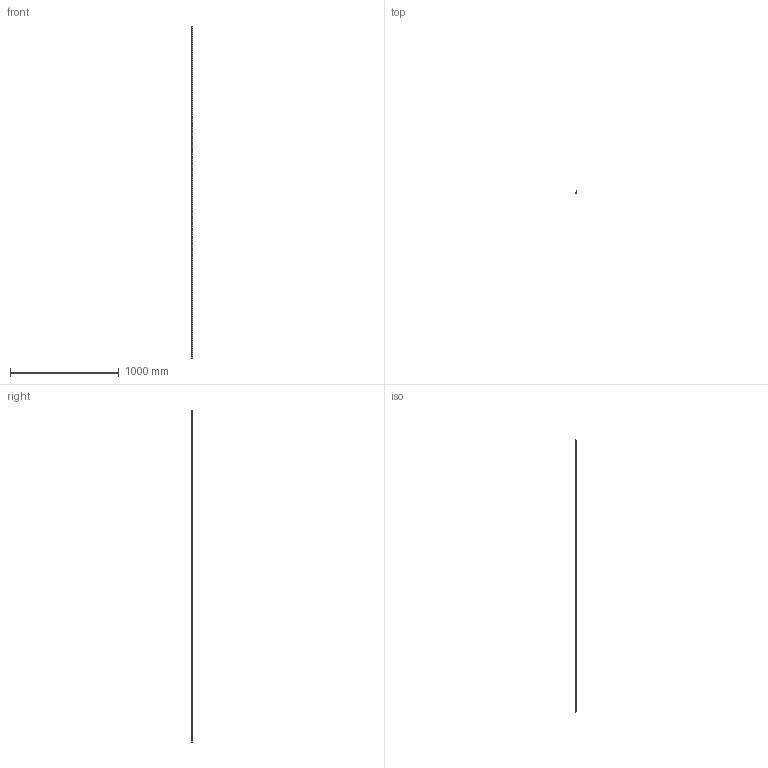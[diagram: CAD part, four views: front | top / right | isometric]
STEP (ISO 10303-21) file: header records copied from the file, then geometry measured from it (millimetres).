
FILE_DESCRIPTION (( 'STEP AP203' ), '1' );
FILE_NAME ('M03D.L3.STEP', '2018-06-19T15:45:33', ( 'Michael Moliner' ), ( '' ), 'SwSTEP 2.0', 'SolidWorks 2018', '' );
FILE_SCHEMA (( 'CONFIG_CONTROL_DESIGN' ));
Length unit declared in the file: inch
Products named in the file (2): M03D.L3
Bounding box: 12.7 x 14.29 x 3048 mm (x, y, z)
Volume: 58541 mm3; surface area: 233611.5 mm2
Topology: 1 solids, 1 shells, 14 faces, 36 edges, 24 vertices
Faces by surface type: plane 10, cylinder 4
Entity records: 585 total; most frequent: CARTESIAN_POINT 76, DIRECTION 76, ORIENTED_EDGE 72, EDGE_CURVE 36, VECTOR 28, LINE 28, AXIS2_PLACEMENT_3D 24, VERTEX_POINT 24
